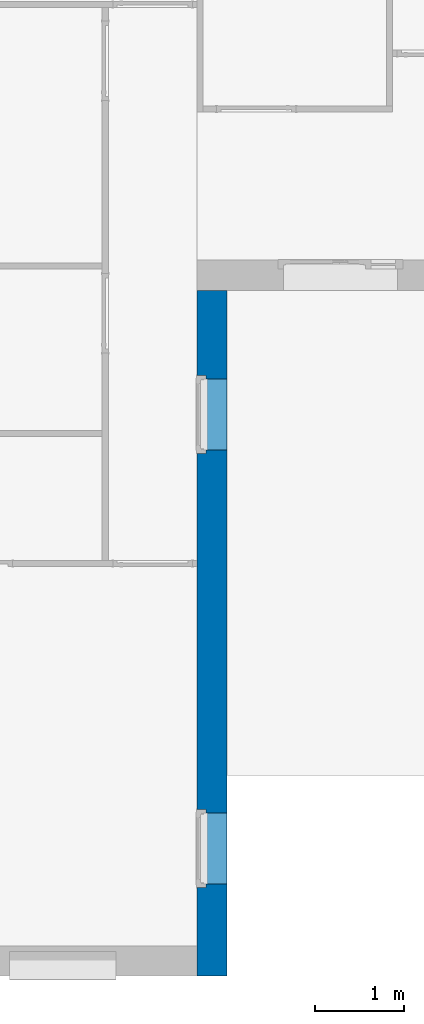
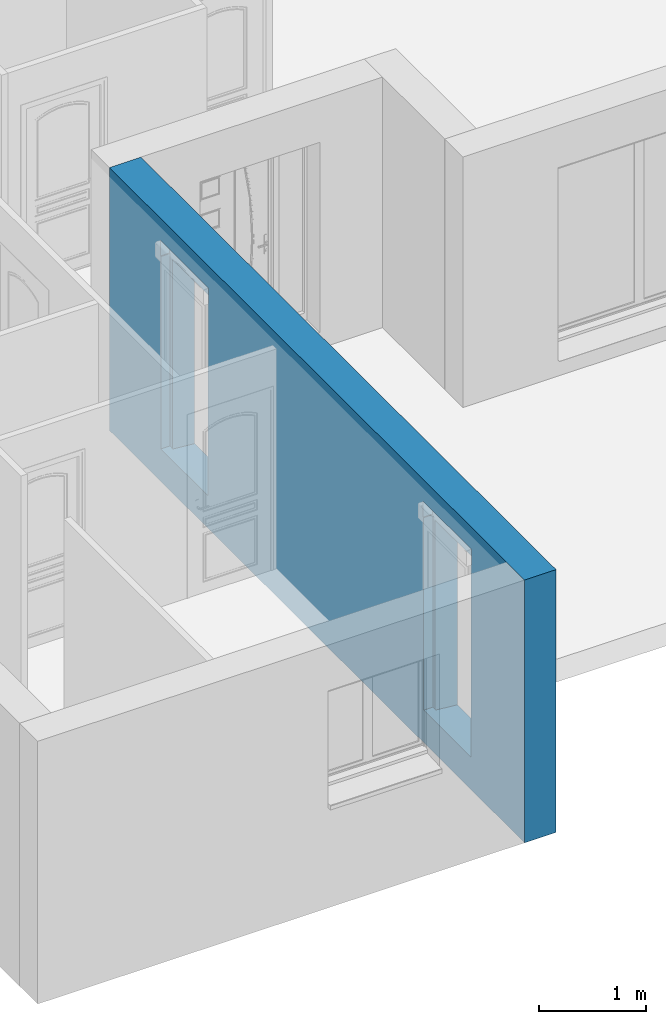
# One storey, part 3 of 23: 1 wall, 2 openings.
"""IFC2X3 building model written with IfcOpenShell, lengths in metres."""

from ifc_helpers import new_model, entity, si_unit, converted_unit, derived_unit, direction, frame, frame_2d, origin, place, context, subcontext, project, spatial, rectangle, extrude, faceted_brep, material, layer, layer_set, layer_usage, type_object, element, save


model = new_model("IFC2X3")

# Units and contexts
model_context = context("Model", 3, precision=1e-05, world=origin(), true_north=direction((6.12303176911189e-17, 1.0)))
body_context = subcontext(model_context, "Body", "Model", "MODEL_VIEW")
ifc_project = project(units=[si_unit("LENGTHUNIT", "METRE"), si_unit("AREAUNIT", "SQUARE_METRE"), si_unit("VOLUMEUNIT", "CUBIC_METRE"), converted_unit("PLANEANGLEUNIT", "DEGREE", entity("IfcRatioMeasure", 0.0174532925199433), si_unit("PLANEANGLEUNIT", "RADIAN"), dimensions=[0, 0, 0, 0, 0, 0, 0]), si_unit("MASSUNIT", "GRAM", prefix="KILO"), derived_unit("MASSDENSITYUNIT", [(si_unit("MASSUNIT", "GRAM", prefix="KILO"), 1), (si_unit("LENGTHUNIT", "METRE"), -3)]), si_unit("TIMEUNIT", "SECOND"), si_unit("FREQUENCYUNIT", "HERTZ"), si_unit("THERMODYNAMICTEMPERATUREUNIT", "DEGREE_CELSIUS"), derived_unit("THERMALTRANSMITTANCEUNIT", [(si_unit("MASSUNIT", "GRAM", prefix="KILO"), 1), (si_unit("THERMODYNAMICTEMPERATUREUNIT", "KELVIN"), -1), (si_unit("TIMEUNIT", "SECOND"), -3)]), derived_unit("VOLUMETRICFLOWRATEUNIT", [(si_unit("LENGTHUNIT", "METRE"), 3), (si_unit("TIMEUNIT", "SECOND"), -1)]), si_unit("ELECTRICCURRENTUNIT", "AMPERE"), si_unit("ELECTRICVOLTAGEUNIT", "VOLT"), si_unit("POWERUNIT", "WATT"), si_unit("FORCEUNIT", "NEWTON", prefix="KILO"), si_unit("ILLUMINANCEUNIT", "LUX"), si_unit("LUMINOUSFLUXUNIT", "LUMEN"), si_unit("LUMINOUSINTENSITYUNIT", "CANDELA"), derived_unit("USERDEFINED", [(si_unit("MASSUNIT", "GRAM", prefix="KILO"), -1), (si_unit("LENGTHUNIT", "METRE"), -2), (si_unit("TIMEUNIT", "SECOND"), 3), (si_unit("LUMINOUSFLUXUNIT", "LUMEN"), 1)]), derived_unit("LINEARVELOCITYUNIT", [(si_unit("LENGTHUNIT", "METRE"), 1), (si_unit("TIMEUNIT", "SECOND"), -1)]), si_unit("PRESSUREUNIT", "PASCAL"), derived_unit("USERDEFINED", [(si_unit("LENGTHUNIT", "METRE"), -2), (si_unit("MASSUNIT", "GRAM", prefix="KILO"), 1), (si_unit("TIMEUNIT", "SECOND"), -2)])], contexts=[model_context])

# Site, building, storey
site_placement = place(None, origin())
site = spatial("IfcSite", under=ifc_project, at=site_placement, Name="Default", CompositionType="ELEMENT")
building_placement = place(site_placement, origin())
building = spatial("IfcBuilding", under=site, at=building_placement, CompositionType="ELEMENT")
storey_placement = place(building_placement, origin())
storey = spatial("IfcBuildingStorey", under=building, at=storey_placement, Name="2 - Rez de Chaussée", CompositionType="ELEMENT", Elevation=-1.94916083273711e-14)

# Wall, openings
ifc_material_1 = material(Name="Maçonnerie - Enduit")
ifc_layer_1 = layer(ifc_material_1, 0.02)
ifc_material_2 = material(Name="Blocs béton manufacturés")
ifc_layer_2 = layer(ifc_material_2, 0.2)
ifc_material_3 = material(Name="TIFE, isolation extérieure")
ifc_layer_3 = layer(ifc_material_3, 0.12)
ifc_layer_set = layer_set([ifc_layer_1, ifc_layer_2, ifc_layer_3], Name="Mur de base:Isolant 10+1 vide 1 Parpaing 20 Enduit 2")
ifc_layer_usage = layer_usage(ifc_layer_set, "AXIS2", "NEGATIVE", 0.17)
wall_type = type_object("IfcWallType", Name="Mur de base:Isolant 10+1 vide 1 Parpaing 20 Enduit 2", PredefinedType="STANDARD", material=ifc_layer_set)
wall_placement = place(storey_placement, frame((-4.52622246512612, 0.288055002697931, -0.32), z_axis=(0.0, 0.0, 1.0), x_axis=(0.0, -1.0, 0.0)))
wall = element("IfcWallStandardCase", 1, at=wall_placement, inside=storey, type_object=wall_type, material=ifc_layer_usage, Name="Mur de base:Isolant 10+1 vide 1 Parpaing 20 Enduit 2", ObjectType="Mur de base:Isolant 10+1 vide 1 Parpaing 20 Enduit 2", context=body_context, shape_type="SweptSolid", body=[
    extrude(rectangle(XDim=7.74, YDim=0.34, at=frame_2d((3.87, 0.0), x_axis=(-1.0, 0.0))), origin(), (0.0, 0.0, 1.0), 2.99000000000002),
])
opening_1_placement = place(wall_placement, frame((1.85, -0.50000000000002, 0.334370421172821), z_axis=(0.0, 0.0, 1.0), x_axis=(0.0, 1.0, 0.0)))
element("IfcOpeningElement", 2, at=opening_1_placement, cuts=wall, Name="Mur de base:Isolant 10+1 vide 1 Parpaing 20 Enduit 2", ObjectType="Opening", context=body_context, shape_type="Brep", body=[
    faceted_brep([(0.0, 0.850000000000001, 2.18562957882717), (0.0, 0.850000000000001, 0.0356295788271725), (0.0, 0.0500000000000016, 0.0356295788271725), (0.0, 0.0500000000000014, 2.18562957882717), (1.0, 0.849999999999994, 2.18562957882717), (1.0, 0.0499999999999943, 2.18562957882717), (1.0, 0.0499999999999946, 0.0356295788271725), (1.0, 0.849999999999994, 0.0356295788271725), (0.317000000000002, 0.0499999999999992, 2.18562957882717), (0.31700000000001, 0.849999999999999, 2.18562957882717), (0.317000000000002, 0.0499999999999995, 0.0356295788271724), (0.31700000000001, 0.849999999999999, 0.0356295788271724), (0.317000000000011, 0.889999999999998, 0.0356295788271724), (0.430000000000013, 0.889999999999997, 0.0356295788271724), (0.430000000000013, 0.849999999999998, 0.0356295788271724), (0.428000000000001, 0.849999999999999, 0.0356295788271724), (0.427999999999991, 0.0499999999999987, 0.0356295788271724), (0.430000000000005, 0.0499999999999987, 0.0356295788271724), (0.430000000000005, 0.00999999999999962, 0.0356295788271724), (0.317000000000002, 0.0100000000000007, 0.0356295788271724), (0.317000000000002, 0.0100000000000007, 2.22562957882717), (0.31700000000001, 0.889999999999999, 2.22562957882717), (0.430000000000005, 0.00999999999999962, 2.22562957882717), (0.430000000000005, 0.0499999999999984, 2.18562957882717), (0.430000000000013, 0.849999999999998, 2.18562957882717), (0.430000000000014, 0.889999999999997, 2.22562957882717), (0.430000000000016, 0.899999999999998, 2.22562957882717), (0.430000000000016, 0.899999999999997, 2.40562957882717), (0.430000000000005, 0.0, 2.40562957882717), (0.430000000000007, 0.0, 2.22562957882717), (0.297000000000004, 0.0, 2.40562957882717), (0.297000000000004, 0.0, 2.22562957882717), (0.297000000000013, 0.899999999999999, 2.40562957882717), (0.297000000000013, 0.899999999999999, 2.22562957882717), (0.427999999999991, 0.0499999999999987, 0.0237969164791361), (0.428, 0.849999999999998, 0.0237969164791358), (0.700000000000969, 0.0499999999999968, 0.0356295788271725), (0.700000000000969, 0.0499999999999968, 0.0), (0.700000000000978, 0.849999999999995, 0.0), (0.700000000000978, 0.849999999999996, 0.0356295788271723)], [[[0, 1, 2, 3]], [[4, 5, 6, 7]], [[0, 3, 8, 9]], [[3, 2, 10, 8]], [[2, 1, 11, 12, 13, 14, 15, 16, 17, 18, 19, 10]], [[1, 0, 9, 11]], [[10, 19, 20, 21, 12, 11, 9, 8]], [[19, 18, 22, 20]], [[18, 17, 23, 24, 14, 13, 25, 26, 27, 28, 29, 22]], [[12, 21, 25, 13]], [[30, 31, 29, 28]], [[32, 27, 26, 33]], [[30, 28, 27, 32]], [[29, 31, 33, 26, 25, 21, 20, 22]], [[31, 30, 32, 33]], [[34, 16, 15, 35]], [[36, 37, 38, 39]], [[37, 34, 35, 38]], [[4, 7, 39, 38, 35, 15, 14, 24]], [[7, 6, 36, 39]], [[6, 5, 23, 17, 16, 34, 37, 36]], [[5, 4, 24, 23]]]),
])
opening_2_placement = place(wall_placement, frame((6.75, -0.500000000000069, 0.334370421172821), z_axis=(0.0, 0.0, 1.0), x_axis=(0.0, 1.0, 0.0)))
element("IfcOpeningElement", 3, at=opening_2_placement, cuts=wall, Name="Mur de base:Isolant 10+1 vide 1 Parpaing 20 Enduit 2", ObjectType="Opening", context=body_context, shape_type="Brep", body=[
    faceted_brep([(0.0, 0.850000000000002, 2.18562957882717), (0.0, 0.850000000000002, 0.0356295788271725), (0.0, 0.0500000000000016, 0.0356295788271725), (0.0, 0.0500000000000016, 2.18562957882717), (1.0, 0.849999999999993, 2.18562957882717), (1.0, 0.049999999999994, 2.18562957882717), (1.0, 0.049999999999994, 0.0356295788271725), (1.0, 0.849999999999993, 0.0356295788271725), (0.317000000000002, 0.0499999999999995, 2.18562957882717), (0.31700000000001, 0.85, 2.18562957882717), (0.317000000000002, 0.0499999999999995, 0.0356295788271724), (0.31700000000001, 0.85, 0.0356295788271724), (0.317000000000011, 0.889999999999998, 0.0356295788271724), (0.430000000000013, 0.889999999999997, 0.0356295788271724), (0.430000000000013, 0.849999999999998, 0.0356295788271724), (0.428000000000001, 0.849999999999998, 0.0356295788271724), (0.427999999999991, 0.0499999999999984, 0.0356295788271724), (0.430000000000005, 0.0499999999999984, 0.0356295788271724), (0.430000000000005, 0.00999999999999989, 0.0356295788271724), (0.317000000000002, 0.010000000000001, 0.0356295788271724), (0.317000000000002, 0.010000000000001, 2.22562957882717), (0.31700000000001, 0.889999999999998, 2.22562957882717), (0.430000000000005, 0.00999999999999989, 2.22562957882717), (0.430000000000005, 0.0499999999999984, 2.18562957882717), (0.430000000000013, 0.849999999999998, 2.18562957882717), (0.430000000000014, 0.889999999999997, 2.22562957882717), (0.430000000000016, 0.899999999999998, 2.22562957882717), (0.430000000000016, 0.899999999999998, 2.40562957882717), (0.430000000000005, 0.0, 2.40562957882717), (0.430000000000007, 0.0, 2.22562957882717), (0.297000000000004, 0.0, 2.40562957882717), (0.297000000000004, 0.0, 2.22562957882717), (0.297000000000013, 0.899999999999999, 2.40562957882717), (0.297000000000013, 0.899999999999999, 2.22562957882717), (0.427999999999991, 0.0499999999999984, 0.0237969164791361), (0.428, 0.849999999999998, 0.0237969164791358), (0.700000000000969, 0.0499999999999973, 0.0356295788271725), (0.700000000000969, 0.0499999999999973, 0.0), (0.700000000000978, 0.849999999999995, 0.0), (0.700000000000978, 0.849999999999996, 0.0356295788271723)], [[[0, 1, 2, 3]], [[4, 5, 6, 7]], [[0, 3, 8, 9]], [[3, 2, 10, 8]], [[2, 1, 11, 12, 13, 14, 15, 16, 17, 18, 19, 10]], [[1, 0, 9, 11]], [[10, 19, 20, 21, 12, 11, 9, 8]], [[19, 18, 22, 20]], [[18, 17, 23, 24, 14, 13, 25, 26, 27, 28, 29, 22]], [[12, 21, 25, 13]], [[30, 31, 29, 28]], [[32, 27, 26, 33]], [[30, 28, 27, 32]], [[29, 31, 33, 26, 25, 21, 20, 22]], [[31, 30, 32, 33]], [[34, 16, 15, 35]], [[36, 37, 38, 39]], [[37, 34, 35, 38]], [[4, 7, 39, 38, 35, 15, 14, 24]], [[7, 6, 36, 39]], [[6, 5, 23, 17, 16, 34, 37, 36]], [[5, 4, 24, 23]]]),
])

save(model, "model.ifc")
